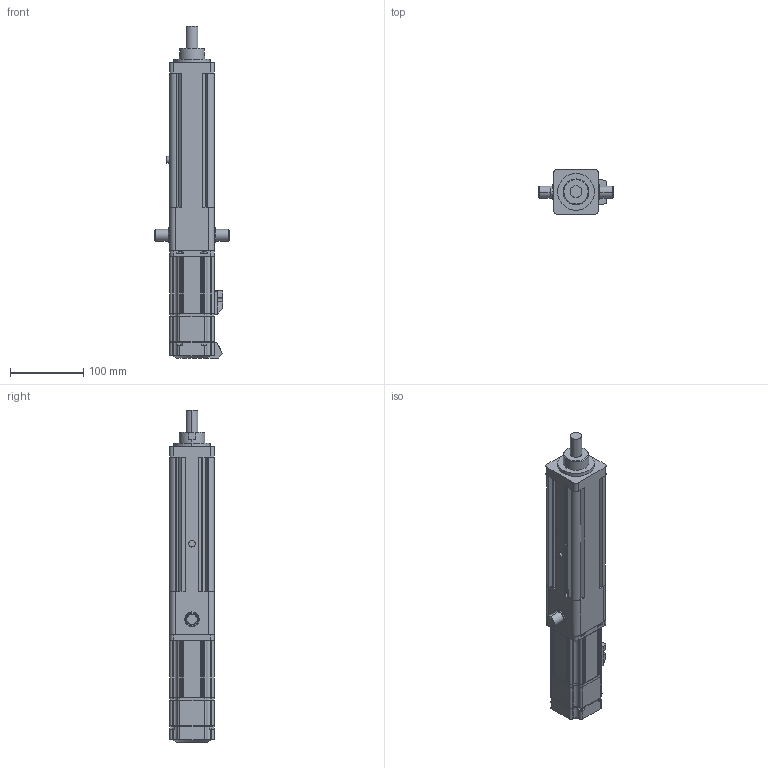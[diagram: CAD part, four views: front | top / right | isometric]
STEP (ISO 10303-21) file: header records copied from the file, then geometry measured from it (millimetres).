
FILE_DESCRIPTION (( 'STEP AP203' ), '1' );
FILE_NAME ('S2眻盄嫉粣假蚾.STEP', '2024-05-27T05:13:48', ( '' ), ( '' ), 'SwSTEP 2.0', 'SolidWorks 2018', '' );
FILE_SCHEMA (( 'CONFIG_CONTROL_DESIGN' ));
Length unit declared in the file: millimetre
Products named in the file (3): S2眻盄嫉粣; 陓豎400W 湍价陬; S2眻盄嫉粣假蚾
Assembly tree (2 placements, depth 2):
  S2眻盄嫉粣假蚾
    S2眻盄嫉粣
    陓豎400W 湍价陬
Bounding box: 101 x 61.06 x 452 mm (x, y, z)
Volume: 516050.1 mm3; surface area: 215709.2 mm2
Topology: 1 solids, 28 shells, 738 faces, 2095 edges, 1423 vertices
Faces by surface type: plane 362, cylinder 349, cone 19, torus 8
Entity records: 24429 total; most frequent: DIRECTION 4435, CARTESIAN_POINT 4378, ORIENTED_EDGE 3694, EDGE_CURVE 2095, AXIS2_PLACEMENT_3D 1616, VERTEX_POINT 1423, LINE 1203, VECTOR 1203
